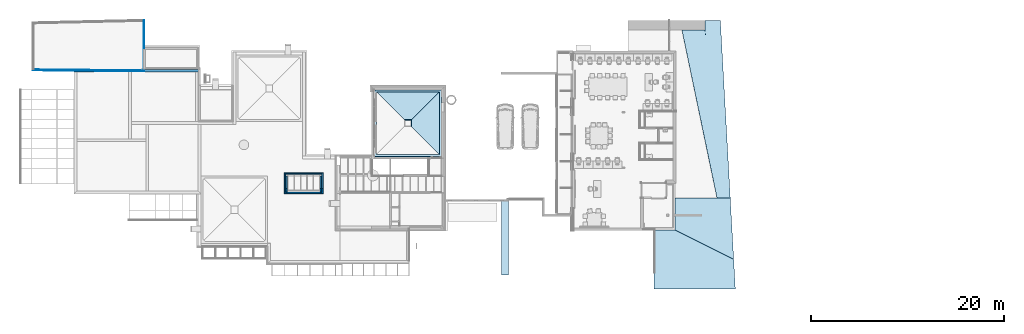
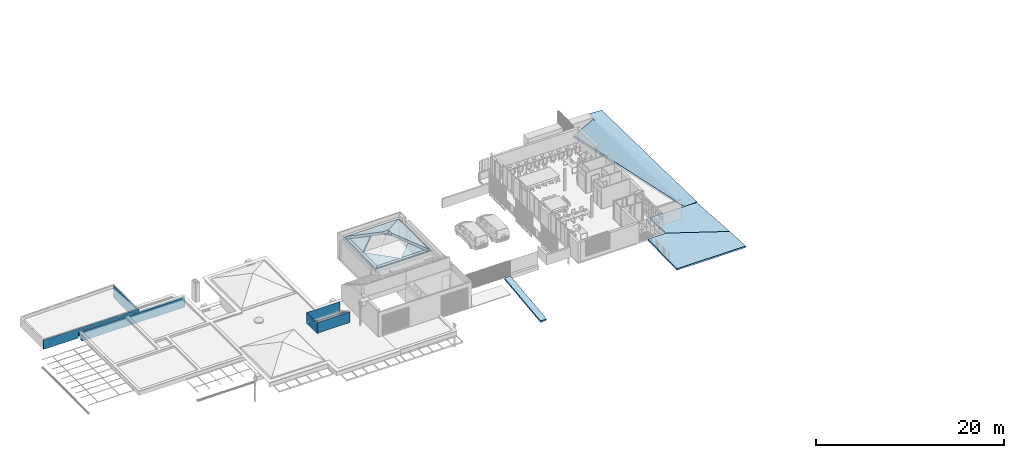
# One storey, part 23 of 51: 9 walls, 7 slabs.
"""IFC2X3 building model written with IfcOpenShell, lengths in metres."""

import ifcopenshell
import ifcopenshell.guid

model = None  # the IFC model being written
_history = None  # IfcOwnerHistory: only IFC2X3 demands one
_inside = {}  # id of a spatial element -> (the spatial element, [elements in it])
_under = {}  # id of a project, library or spatial element -> (it, [spatial elements below it])
_declared = {}  # id of a project -> (the project, [libraries it declares])
_typed = {}  # id of a type object -> (the type object, [elements of that type])
_made_of = {}  # id of a material, layer set ... -> (it, [elements and type objects made of it])


def new_model(schema):
    """Start an empty IFC model of exactly this schema.

    Asked for "IFC4X3", IfcOpenShell would pick the latest addendum, in which some entities
    have other attributes; the version numbers below select the first issue.
    IFC2X3 requires an IfcOwnerHistory on every rooted entity: one is made here for all.
    """
    global model, _history
    if schema == "IFC4X3":
        model = ifcopenshell.file(schema_version=(4, 3, 0, 0))
    else:
        model = ifcopenshell.file(schema=schema)
    _inside.clear()
    _under.clear()
    _declared.clear()
    _typed.clear()
    _made_of.clear()
    _history = None
    if model.schema == "IFC2X3":
        org = make("IfcOrganization", Name="unknown")
        user = make(
            "IfcPersonAndOrganization",
            ThePerson=make("IfcPerson", FamilyName="unknown"),
            TheOrganization=org,
        )
        app = make(
            "IfcApplication",
            ApplicationDeveloper=org,
            Version="unknown",
            ApplicationFullName="unknown",
            ApplicationIdentifier="unknown",
        )
        _history = make(
            "IfcOwnerHistory",
            OwningUser=user,
            OwningApplication=app,
            ChangeAction="ADDED",
            CreationDate=0,
        )
    return model


def make(cls, **values):
    """One entity of the class cls with the attributes given. An attribute that is None is left unset."""
    return model.create_entity(
        cls, **{name: value for name, value in values.items() if value is not None}
    )


def entity(cls, *values):
    """Any entity or typed value of the class cls, its attributes in the order of the schema. None: left unset."""
    e = model.create_entity(cls)
    for i, value in enumerate(values):
        if value is not None:
            e[i] = value
    return e


def rooted(cls, **values):
    """An entity with a GlobalId (a new one), such as an element, a storey or a relation."""
    return make(cls, GlobalId=ifcopenshell.guid.new(), OwnerHistory=_history, **values)


def si_unit(unit_type, name, prefix=None):
    """IfcSIUnit, for example si_unit("LENGTHUNIT", "METRE", prefix="MILLI")."""
    return make("IfcSIUnit", UnitType=unit_type, Prefix=prefix, Name=name)


def converted_unit(unit_type, name, factor, base, dimensions=None, offset=None):
    """IfcConversionBasedUnit, such as the inch: factor (a typed value) times the base unit."""
    return make(
        "IfcConversionBasedUnit"
        if offset is None
        else "IfcConversionBasedUnitWithOffset",
        ConversionOffset=offset,
        Dimensions=None
        if dimensions is None
        else entity("IfcDimensionalExponents", *dimensions),
        UnitType=unit_type,
        Name=name,
        ConversionFactor=make(
            "IfcMeasureWithUnit", ValueComponent=factor, UnitComponent=base
        ),
    )


def derived_unit(unit_type, elements):
    """IfcDerivedUnit: a product of units, each with its exponent."""
    return make(
        "IfcDerivedUnit",
        Elements=[
            make("IfcDerivedUnitElement", Unit=unit, Exponent=power)
            for unit, power in elements
        ],
        UnitType=unit_type,
    )


def assignment(units):
    """IfcUnitAssignment: the units of a project."""
    return None if units is None else make("IfcUnitAssignment", Units=units)


def point(xyz):
    """IfcCartesianPoint."""
    return None if xyz is None else make("IfcCartesianPoint", Coordinates=xyz)


def direction(xyz):
    """IfcDirection."""
    return None if xyz is None else make("IfcDirection", DirectionRatios=xyz)


def frame(location, z_axis=None, x_axis=None):
    """IfcAxis2Placement3D, a coordinate frame: its origin and axes. An axis left out is left unset."""
    return make(
        "IfcAxis2Placement3D",
        Location=point(location),
        Axis=direction(z_axis),
        RefDirection=direction(x_axis),
    )


def origin():
    """The frame at (0, 0, 0) with its axes left unset."""
    return frame((0.0, 0.0, 0.0))


def place(relative_to, where):
    """IfcLocalPlacement: puts the frame where relative to a parent placement (None: the world)."""
    return make(
        "IfcLocalPlacement", PlacementRelTo=relative_to, RelativePlacement=where
    )


def context(
    kind, dimensions, precision=None, world=None, true_north=None, identifier=None
):
    """IfcGeometricRepresentationContext, for example the 3D "Model" context."""
    return make(
        "IfcGeometricRepresentationContext",
        ContextIdentifier=identifier,
        ContextType=kind,
        CoordinateSpaceDimension=dimensions,
        Precision=precision,
        WorldCoordinateSystem=world,
        TrueNorth=true_north,
    )


def subcontext(parent, identifier, kind, view, scale=None):
    """IfcGeometricRepresentationSubContext, for example "Body" below "Model"."""
    return make(
        "IfcGeometricRepresentationSubContext",
        ContextIdentifier=identifier,
        ContextType=kind,
        ParentContext=parent,
        TargetScale=scale,
        TargetView=view,
    )


def project(units=None, contexts=None):
    """IfcProject with its units and contexts."""
    return rooted(
        "IfcProject",
        Name="project",
        RepresentationContexts=contexts,
        UnitsInContext=assignment(units),
    )


def spatial(cls, under=None, at=None, **own):
    """A site, building, storey or space (cls), placed at a placement, below another one or the project."""
    s = rooted(cls, ObjectPlacement=at, **own)
    if under is not None:
        _under.setdefault(under.id(), (under, []))[1].append(s)
    return s


def faces_of(points, faces, orient=None, outer=None):
    """IfcFace entities. A face is a list of loops; a loop is a list of indices into points, from 0.

    orient and outer hold one flag for each loop. By default every Orientation is true, the
    first loop of a face is its IfcFaceOuterBound and the others are IfcFaceBound.
    """
    made = []
    for i, loops in enumerate(faces):
        bounds = []
        for j, loop in enumerate(loops):
            is_outer = j == 0 if outer is None else outer[i][j]
            bounds.append(
                make(
                    "IfcFaceOuterBound" if is_outer else "IfcFaceBound",
                    Bound=make("IfcPolyLoop", Polygon=[points[k] for k in loop]),
                    Orientation=True if orient is None else orient[i][j],
                )
            )
        made.append(make("IfcFace", Bounds=bounds))
    return made


def faceted_brep(points, faces, orient=None, outer=None, voids=None):
    """IfcFacetedBrep: a solid bounded by flat faces; with voids (closed shells), ...WithVoids."""
    shared = [point(p) for p in points]
    hull = make("IfcClosedShell", CfsFaces=faces_of(shared, faces, orient, outer))
    if voids is None:
        return make("IfcFacetedBrep", Outer=hull)
    return make(
        "IfcFacetedBrepWithVoids",
        Outer=hull,
        Voids=[
            make(cls, CfsFaces=faces_of(shared, fs, o, b)) for cls, fs, o, b in voids
        ],
    )


def shape(context_of_items, identifier, shape_type, items):
    """IfcShapeRepresentation: the items that make up one representation, for example the "Body"."""
    return make(
        "IfcShapeRepresentation",
        ContextOfItems=context_of_items,
        RepresentationIdentifier=identifier,
        RepresentationType=shape_type,
        Items=items,
    )


def material(Name=None, Category=None):
    """IfcMaterial."""
    return make("IfcMaterial", Name=Name, Category=Category)


def layer(
    of_material, thickness, ventilated=None, Name=None, Category=None, Priority=None
):
    """IfcMaterialLayer: one layer of a wall or slab, of a material (None: an air gap)."""
    return make(
        "IfcMaterialLayer",
        Material=of_material,
        LayerThickness=thickness,
        IsVentilated=ventilated,
        Name=Name,
        Category=Category,
        Priority=Priority,
    )


def layer_set(layers, Name=None):
    """IfcMaterialLayerSet."""
    return make("IfcMaterialLayerSet", MaterialLayers=layers, LayerSetName=Name)


def layer_usage(for_layer_set, set_direction, sense, offset, extent=None):
    """IfcMaterialLayerSetUsage: how a layer set lies in its element."""
    return make(
        "IfcMaterialLayerSetUsage",
        ForLayerSet=for_layer_set,
        LayerSetDirection=set_direction,
        DirectionSense=sense,
        OffsetFromReferenceLine=offset,
        ReferenceExtent=extent,
    )


def made_of(thing, what):
    """Note that an element or type object is made of a material, layer set ...; save() writes the relation."""
    if what is not None:
        _made_of.setdefault(what.id(), (what, []))[1].append(thing)
    return thing


def type_object(cls, material=None, **own):
    """A type object (cls), such as IfcWallType, which elements share."""
    return made_of(rooted(cls, **own), material)


def element(
    cls,
    number,
    at=None,
    inside=None,
    cuts=None,
    type_object=None,
    material=None,
    context=None,
    identifier="Body",
    shape_type=None,
    held_by="IfcProductDefinitionShape",
    body=None,
    shapes=None,
    **own,
):
    """One element of the class cls, such as IfcWall. Its Tag is "e" and its number.

    at: its placement. inside: the storey or other place that contains it. cuts: it is an
    opening in that element (IfcRelVoidsElement). A single representation is given by context,
    identifier, shape_type and body (its items); several are given by shapes. held_by: the class
    of the entity that holds the representations. save() writes the other relations.
    """
    e = rooted(cls, Tag="e%d" % number, ObjectPlacement=at, **own)
    if body is not None:
        shapes = [shape(context, identifier, shape_type, body)]
    if shapes is not None:
        e.Representation = make(held_by, Representations=shapes)
    if inside is not None:
        _inside.setdefault(inside.id(), (inside, []))[1].append(e)
    if cuts is not None:
        rooted(
            "IfcRelVoidsElement", RelatingBuildingElement=cuts, RelatedOpeningElement=e
        )
    if type_object is not None:
        _typed.setdefault(type_object.id(), (type_object, []))[1].append(e)
    return made_of(e, material)


def aggregate(whole, parts):
    """IfcRelAggregates: a whole, such as a stair, and the parts it consists of."""
    return rooted("IfcRelAggregates", RelatingObject=whole, RelatedObjects=parts)


def save(model, path):
    """Write the relations noted so far, then the file.

    IfcRelAggregates (storeys below a building ...), IfcRelContainedInSpatialStructure (elements
    in a storey), IfcRelDefinesByType, IfcRelAssociatesMaterial and IfcRelDeclares: one each for
    every whole, place, type object, material and project.
    """
    for whole, parts in _under.values():
        aggregate(whole, parts)
    for where, things in _inside.values():
        rooted(
            "IfcRelContainedInSpatialStructure",
            RelatedElements=things,
            RelatingStructure=where,
        )
    for kind, things in _typed.values():
        rooted("IfcRelDefinesByType", RelatedObjects=things, RelatingType=kind)
    for what, things in _made_of.values():
        rooted("IfcRelAssociatesMaterial", RelatedObjects=things, RelatingMaterial=what)
    for by, libraries in _declared.values():
        rooted("IfcRelDeclares", RelatingContext=by, RelatedDefinitions=libraries)
    model.write(path)


model = new_model("IFC2X3")

# Units and contexts
model_context = context("Model", 3, precision=1e-05, world=origin(), true_north=direction((6.123031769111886e-17, 1.0)))
body_context = subcontext(model_context, "Body", "Model", "MODEL_VIEW")
ifc_project = project(units=[si_unit("LENGTHUNIT", "METRE"), si_unit("AREAUNIT", "SQUARE_METRE"), si_unit("VOLUMEUNIT", "CUBIC_METRE"), converted_unit("PLANEANGLEUNIT", "DEGREE", entity("IfcRatioMeasure", 0.017453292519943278), si_unit("PLANEANGLEUNIT", "RADIAN"), dimensions=[0, 0, 0, 0, 0, 0, 0]), si_unit("MASSUNIT", "GRAM", prefix="KILO"), derived_unit("MASSDENSITYUNIT", [(si_unit("MASSUNIT", "GRAM", prefix="KILO"), 1), (si_unit("LENGTHUNIT", "METRE"), -3)]), derived_unit("MOMENTOFINERTIAUNIT", [(si_unit("LENGTHUNIT", "METRE"), 4)]), si_unit("TIMEUNIT", "SECOND"), si_unit("FREQUENCYUNIT", "HERTZ"), si_unit("THERMODYNAMICTEMPERATUREUNIT", "DEGREE_CELSIUS"), derived_unit("THERMALTRANSMITTANCEUNIT", [(si_unit("MASSUNIT", "GRAM", prefix="KILO"), 1), (si_unit("THERMODYNAMICTEMPERATUREUNIT", "KELVIN"), -1), (si_unit("TIMEUNIT", "SECOND"), -3)]), derived_unit("THERMALCONDUCTANCEUNIT", [(si_unit("MASSUNIT", "GRAM", prefix="KILO"), 1), (si_unit("LENGTHUNIT", "METRE"), 1), (si_unit("THERMODYNAMICTEMPERATUREUNIT", "KELVIN"), -1), (si_unit("TIMEUNIT", "SECOND"), -3)]), derived_unit("VOLUMETRICFLOWRATEUNIT", [(si_unit("LENGTHUNIT", "METRE"), 3), (si_unit("TIMEUNIT", "SECOND"), -1)]), derived_unit("MASSFLOWRATEUNIT", [(si_unit("MASSUNIT", "GRAM", prefix="KILO"), 1), (si_unit("TIMEUNIT", "SECOND"), -1)]), derived_unit("ROTATIONALFREQUENCYUNIT", [(si_unit("TIMEUNIT", "SECOND"), -1)]), si_unit("ELECTRICCURRENTUNIT", "AMPERE"), si_unit("ELECTRICVOLTAGEUNIT", "VOLT"), si_unit("POWERUNIT", "WATT"), si_unit("FORCEUNIT", "NEWTON", prefix="KILO"), si_unit("ILLUMINANCEUNIT", "LUX"), si_unit("LUMINOUSFLUXUNIT", "LUMEN"), si_unit("LUMINOUSINTENSITYUNIT", "CANDELA"), derived_unit("USERDEFINED", [(si_unit("MASSUNIT", "GRAM", prefix="KILO"), -1), (si_unit("LENGTHUNIT", "METRE"), -2), (si_unit("TIMEUNIT", "SECOND"), 3), (si_unit("LUMINOUSFLUXUNIT", "LUMEN"), 1)]), derived_unit("USERDEFINED", [(si_unit("MASSUNIT", "GRAM", prefix="KILO"), 1), (si_unit("LENGTHUNIT", "METRE"), 3), (si_unit("TIMEUNIT", "SECOND"), -3), (si_unit("ELECTRICCURRENTUNIT", "AMPERE"), -2)]), derived_unit("USERDEFINED", [(si_unit("LENGTHUNIT", "METRE"), 2), (si_unit("TIMEUNIT", "SECOND"), -2)]), derived_unit("SOUNDPOWERUNIT", [(si_unit("MASSUNIT", "GRAM", prefix="KILO"), 1), (si_unit("LENGTHUNIT", "METRE"), 2), (si_unit("TIMEUNIT", "SECOND"), -3)]), derived_unit("SOUNDPRESSUREUNIT", [(si_unit("MASSUNIT", "GRAM", prefix="KILO"), 1), (si_unit("LENGTHUNIT", "METRE"), -1), (si_unit("TIMEUNIT", "SECOND"), -2)]), derived_unit("LINEARVELOCITYUNIT", [(si_unit("LENGTHUNIT", "METRE"), 1), (si_unit("TIMEUNIT", "SECOND"), -1)]), si_unit("PRESSUREUNIT", "PASCAL"), derived_unit("USERDEFINED", [(si_unit("LENGTHUNIT", "METRE"), -2), (si_unit("MASSUNIT", "GRAM", prefix="KILO"), 1), (si_unit("TIMEUNIT", "SECOND"), -2)]), derived_unit("LINEARFORCEUNIT", [(si_unit("MASSUNIT", "GRAM", prefix="KILO"), 1), (si_unit("LENGTHUNIT", "METRE"), 1), (si_unit("TIMEUNIT", "SECOND"), -2), (si_unit("LENGTHUNIT", "METRE"), -1)]), derived_unit("PLANARFORCEUNIT", [(si_unit("MASSUNIT", "GRAM", prefix="KILO"), 1), (si_unit("LENGTHUNIT", "METRE"), 1), (si_unit("TIMEUNIT", "SECOND"), -2), (si_unit("LENGTHUNIT", "METRE"), -2)]), derived_unit("SPECIFICHEATCAPACITYUNIT", [(si_unit("LENGTHUNIT", "METRE"), 2), (si_unit("TIMEUNIT", "SECOND"), -2), (si_unit("THERMODYNAMICTEMPERATUREUNIT", "KELVIN"), -1)]), derived_unit("VAPORPERMEABILITYUNIT", [(si_unit("TIMEUNIT", "SECOND"), 1), (si_unit("LENGTHUNIT", "METRE"), -1)]), derived_unit("DYNAMICVISCOSITYUNIT", [(si_unit("MASSUNIT", "GRAM", prefix="KILO"), 1), (si_unit("LENGTHUNIT", "METRE"), -1), (si_unit("TIMEUNIT", "SECOND"), -1)]), derived_unit("THERMALEXPANSIONCOEFFICIENTUNIT", [(si_unit("THERMODYNAMICTEMPERATUREUNIT", "KELVIN"), -1)])], contexts=[model_context])

# Site, building, storey
site_placement = place(None, origin())
site = spatial("IfcSite", under=ifc_project, at=site_placement, Name="Default", CompositionType="ELEMENT")
building_placement = place(site_placement, origin())
building = spatial("IfcBuilding", under=site, at=building_placement, CompositionType="ELEMENT")
storey_placement = place(building_placement, frame((0.0, 0.0, 3.06)))
storey = spatial("IfcBuildingStorey", under=building, at=storey_placement, Name="ÉTAGE", CompositionType="ELEMENT", Elevation=3.06)

# Slabs
ifc_material_1 = material(Name="Sol - Moquette 03")
slab_type_1 = type_object("IfcSlabType", Name="Toit-02", PredefinedType="ROOF", material=ifc_material_1)
slab_1_placement = place(storey_placement, frame((150.00075227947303, 1.4872094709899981, 0.886799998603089)))
element("IfcSlab", 1, at=slab_1_placement, inside=storey, type_object=slab_type_1, Name="Toit-02 240278:Toit-02 240278", ObjectType="Toit-02 240278:Toit-02 240278", PredefinedType="ROOF", context=body_context, shape_type="Brep", body=[
    faceted_brep([(8.455439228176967, 0.0, 0.1999999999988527), (8.28221666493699, 3.11139222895, 0.2622278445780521), (2.1850009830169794, 6.160000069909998, 0.3232000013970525), (0.0, 6.160000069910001, 0.32320000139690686), (0.0, 0.0, 0.19999999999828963), (8.45566183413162, 0.0, 0.0), (8.282359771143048, 3.1128201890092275, 0.06225640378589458), (2.1880000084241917, 6.160000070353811, 0.12320000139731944), (0.0, 6.1600000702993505, 0.1232000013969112), (0.0, 0.0, 0.0)], [[[0, 1, 2, 3, 4]], [[1, 0, 5, 6]], [[2, 1, 6, 7]], [[3, 2, 7, 8]], [[4, 3, 8, 9]], [[0, 4, 9, 5]], [[6, 5, 9, 8, 7]]]),
])
ifc_material_2 = material(Name="Env. - Herbe brune")
slab_type_2 = type_object("IfcSlabType", Name="Dalle-006", PredefinedType="FLOOR", material=ifc_material_2)
slab_2_placement = place(storey_placement, frame((152.90075228, 10.987209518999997, 0.7281463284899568)))
element("IfcSlab", 2, at=slab_2_placement, inside=storey, type_object=slab_type_2, Name="Dalle-006 287061:Dalle-006 287061", ObjectType="Dalle-006 287061:Dalle-006 287061", PredefinedType="FLOOR", context=body_context, shape_type="Brep", body=[
    faceted_brep([(2.4000001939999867, 17.4369534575, 1.5723209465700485), (0.0, 17.4369534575, 0.2818536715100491), (3.642294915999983, 6.4000002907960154e-09, 0.2818536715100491), (3.642294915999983, 6.400004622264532e-09, 0.2629862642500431), (5.029323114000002, 6.099998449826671e-09, 0.5476536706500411), (0.0, 17.4369534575, 0.0), (3.9998775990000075, 18.440715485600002, 1.579395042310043), (2.93412111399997, 3.349999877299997, 0.011853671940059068), (3.9998775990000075, 18.4407154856, 0.011853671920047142), (2.4000001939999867, 18.4369534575, 1.6494942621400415), (2.4000001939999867, 17.4369534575, 0.005721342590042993), (3.642294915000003, 0.0, 0.20907938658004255), (5.029323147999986, 2.149999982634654e-08, 0.011853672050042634), (2.4000001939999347, 18.4369534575, 0.009250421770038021)], [[[0, 1, 2]], [[1, 3, 2]], [[4, 0, 2]], [[1, 5, 3]], [[0, 4, 6]], [[5, 7, 3]], [[6, 4, 8]], [[9, 0, 6]], [[7, 5, 10]], [[11, 3, 7]], [[4, 12, 8]], [[7, 10, 13]], [[11, 7, 12]], [[7, 8, 12]], [[7, 13, 8]]]),
])
slab_type_3 = type_object("IfcSlabType", Name="Dalle-010", PredefinedType="FLOOR")
slab_3_placement = place(storey_placement, frame((120.97075226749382, 15.207209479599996, 2.4)))
element("IfcSlab", 3, at=slab_3_placement, inside=storey, type_object=slab_type_3, Name="Dalle-010 442746:Dalle-010 442746", ObjectType="Dalle-010 442746:Dalle-010 442746", PredefinedType="FLOOR", context=body_context, shape_type="Brep", body=[
    faceted_brep([(6.939999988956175, 6.9800000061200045, 0.0), (6.939999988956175, 0.0, 0.0), (0.010000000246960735, 0.0, 0.0), (0.010000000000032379, 0.10000000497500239, 0.0), (2.350616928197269e-08, 0.10000000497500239, 0.0), (2.350616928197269e-08, 6.820000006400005, 0.0), (0.04000001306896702, 6.820000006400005, 0.0), (0.04000001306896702, 6.9800000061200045, 0.0), (3.469999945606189, 0.5801515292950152, 0.0), (6.439848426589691, 3.5500000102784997, 0.0), (3.4699999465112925, 6.5198484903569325, 0.0), (0.500151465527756, 3.550000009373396, 0.0), (6.939999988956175, 0.0, 0.3600000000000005), (6.930000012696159, 0.0, 0.3600000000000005), (6.930000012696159, 0.0, 0.44000000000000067), (0.010000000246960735, 0.0, 0.44000000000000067), (6.939999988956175, 6.9800000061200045, 0.3399999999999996), (6.939999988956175, 0.08000000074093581, 0.3399999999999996), (6.939999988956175, 0.08000000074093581, 0.3600000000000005), (0.04000001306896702, 6.9800000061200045, 0.3399999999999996), (2.350616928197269e-08, 0.10000000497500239, 0.3399999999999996), (2.350616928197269e-08, 6.820000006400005, 0.3400000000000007), (6.930000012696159, 0.08000000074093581, 0.3600000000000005), (6.940000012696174, 0.08000000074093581, 0.3399999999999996), (0.010000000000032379, 0.08000000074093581, 0.3399999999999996), (0.01000000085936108, 0.08000000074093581, 0.44000000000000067), (6.930000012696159, 0.08000000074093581, 0.44000000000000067), (0.04000001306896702, 6.820000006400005, 0.3399999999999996), (0.0, 0.10000000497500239, 0.3399999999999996), (0.010000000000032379, 0.10000000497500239, 0.3399999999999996), (0.2099999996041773, 6.790000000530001, 0.3399999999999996), (6.730000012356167, 6.7900000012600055, 0.3399999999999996), (6.730000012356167, 0.29000000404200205, 0.3399999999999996), (0.20999999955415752, 0.2900000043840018, 0.3399999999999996), (6.940000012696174, 0.08000000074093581, 0.3600000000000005), (6.930000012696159, 0.08000000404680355, 0.3600000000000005), (6.930000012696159, 0.07999998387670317, 0.44000000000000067), (0.01000000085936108, 0.08000000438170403, 0.44000000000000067), (0.010000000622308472, 0.0, 0.44000000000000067), (0.010000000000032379, 0.08000000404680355, 0.3399999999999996), (0.0, 6.820000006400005, 0.3399999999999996), (0.2099999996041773, 6.790000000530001, 0.16999999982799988), (6.730000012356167, 6.79000000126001, 0.16999999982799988), (0.20999999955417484, 0.2900000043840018, 0.16999999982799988), (6.730000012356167, 0.29000000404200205, 0.16999999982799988), (0.5748068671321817, 6.425193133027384, 0.34000000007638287), (3.375344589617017, 6.42519313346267, 0.34000000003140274), (3.469999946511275, 6.519848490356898, 0.29589060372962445), (3.5646553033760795, 6.425193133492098, 0.34000000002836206), (6.365193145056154, 6.425193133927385, 0.339999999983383), (0.5748068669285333, 0.6548068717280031, 0.3400000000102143), (0.5748068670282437, 3.475344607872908, 0.3400000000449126), (0.5001514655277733, 3.5500000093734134, 0.30521058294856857), (0.5748068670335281, 3.6246554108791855, 0.3400000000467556), (6.365193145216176, 0.6548068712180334, 0.3399999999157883), (3.544655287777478, 0.6548068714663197, 0.3399999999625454), (3.4699999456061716, 0.5801515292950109, 0.30521061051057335), (3.395344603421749, 0.6548068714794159, 0.3399999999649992), (6.365193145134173, 3.6246552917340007, 0.3399999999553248), (6.439848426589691, 3.550000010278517, 0.30521063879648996), (6.365193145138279, 3.4753447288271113, 0.3399999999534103)], [[[0, 1, 2, 3, 4, 5, 6, 7], [8, 9, 10, 11]], [[2, 1, 12, 13, 14, 15]], [[1, 0, 16, 17, 18, 12]], [[0, 7, 19, 16]], [[5, 4, 20, 21]], [[22, 18, 23, 24, 25, 26]], [[24, 17, 16, 19, 27, 21, 28, 29], [30, 31, 32, 33]], [[34, 35, 13, 12]], [[22, 36, 14, 13]], [[26, 37, 38, 14]], [[25, 39, 29, 3, 2, 38]], [[29, 20, 4, 3]], [[40, 27, 6, 5]], [[27, 19, 7, 6]], [[31, 30, 41, 42]], [[30, 33, 43, 41]], [[33, 32, 44, 43]], [[32, 31, 42, 44]], [[42, 41, 45, 46, 47, 48, 49]], [[41, 43, 50, 51, 52, 53, 45]], [[43, 44, 54, 55, 56, 57, 50]], [[44, 42, 49, 58, 59, 60, 54]], [[49, 48, 58]], [[8, 56, 55, 60, 59, 9]], [[9, 59, 58, 48, 47, 10]], [[10, 47, 46, 53, 52, 11]], [[56, 8, 11, 52, 51, 57]], [[55, 54, 60]], [[46, 45, 53]], [[51, 50, 57]]]),
])
slab_type_4 = type_object("IfcSlabType", Name="Toit-02", PredefinedType="ROOF", material=ifc_material_1)
slab_4_placement = place(storey_placement, frame((152.18875228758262, 4.598601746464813, 0.9490586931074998)))
element("IfcSlab", 4, at=slab_4_placement, inside=storey, type_object=slab_type_4, Name="Toit-02 453865:Toit-02 453865", ObjectType="Toit-02 453865:Toit-02 453865", PredefinedType="ROOF", context=body_context, shape_type="Brep", body=[
    faceted_brep([(0.0, 3.047108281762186, 0.2609113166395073), (6.094216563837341, 0.0, 0.19996915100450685), (5.738539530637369, 6.388607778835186, 0.20352592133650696), (0.0, 6.388607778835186, 0.26091131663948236), (0.0, 3.0486077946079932, 0.06094130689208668), (6.094130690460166, 0.0015424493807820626, 0.0), (5.7385395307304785, 6.388607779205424, 0.0035559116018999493), (5.738539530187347, 6.388607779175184, 0.0035559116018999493), (0.0, 6.388607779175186, 0.06094130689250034)], [[[0, 1, 2, 3]], [[1, 0, 4, 5]], [[2, 1, 5, 6]], [[3, 2, 7, 8]], [[0, 3, 8, 4]], [[5, 4, 8, 7]]]),
])
ifc_material_3 = material(Name="Isolation - Fibre de verre")
slab_type_5 = type_object("IfcSlabType", Name="Toit-01", PredefinedType="ROOF", material=ifc_material_3)
slab_5_placement = place(storey_placement, frame((121.18075226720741, 19.035836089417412, 2.569999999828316)))
element("IfcSlab", 5, at=slab_5_placement, inside=storey, type_object=slab_type_5, Name="Toit-01 843637:Toit-01 843637", ObjectType="Toit-01 843637:Toit-01 843637", PredefinedType="ROOF", context=body_context, shape_type="Brep", body=[
    faceted_brep([(2.8904735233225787, 0.07089986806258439, 1.7000000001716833), (3.62952649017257, 0.07089986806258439, 1.7000000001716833), (6.520000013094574, 2.9613733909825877, 0.353039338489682), (0.0, 2.9613733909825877, 0.353039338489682), (2.956942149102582, 0.004431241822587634, 1.400000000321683), (3.563057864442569, 0.004431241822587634, 1.400000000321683), (6.52000001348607, 2.9613733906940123, 0.02206495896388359), (0.0, 2.9613733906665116, 0.02206495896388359), (0.0, 2.961373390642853, 0.0), (2.9613733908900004, 0.0, 1.3800000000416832), (6.520000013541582, 2.961373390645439, 0.0), (3.558626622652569, 0.0, 1.3800000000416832)], [[[0, 1, 2, 3]], [[0, 4, 5, 1]], [[1, 5, 6, 2]], [[2, 6, 7, 3]], [[3, 7, 4, 0]], [[4, 7, 6, 5]], [[7, 8, 9, 4]], [[6, 10, 8, 7]], [[8, 10, 11, 9]], [[4, 9, 11, 5]], [[4, 5, 6, 7]], [[5, 11, 10, 6]]]),
])
slab_type_6 = type_object("IfcSlabType", Name="Toit-01", PredefinedType="ROOF", material=ifc_material_3)
slab_6_placement = place(storey_placement, frame((124.73937888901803, 15.49720948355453, 2.569999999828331)))
element("IfcSlab", 6, at=slab_6_placement, inside=storey, type_object=slab_type_6, Name="Toit-01 843800:Toit-01 843800", ObjectType="Toit-01 843800:Toit-01 843800", PredefinedType="ROOF", context=body_context, shape_type="Brep", body=[
    faceted_brep([(2.961373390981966, 6.499999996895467, 0.3530393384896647), (0.07089986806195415, 3.6095264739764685, 1.7000000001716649), (0.07089986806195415, 2.8904735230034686, 1.7000000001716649), (2.961373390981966, 0.0, 0.3530393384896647), (2.961373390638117, 6.499999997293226, 0.02206495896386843), (0.004431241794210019, 3.543057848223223, 1.400000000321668), (0.004431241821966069, 2.9569421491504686, 1.4000000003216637), (2.9613733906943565, 0.0, 0.02206495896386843), (2.9613733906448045, 0.0, 0.0), (2.9613733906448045, 6.499999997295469, 0.0), (0.0, 2.961373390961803, 1.380000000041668), (0.0, 3.5386266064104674, 1.3800000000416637)], [[[0, 1, 2, 3]], [[0, 4, 5, 1]], [[1, 5, 6, 2]], [[2, 6, 7, 3]], [[3, 7, 4, 0]], [[4, 7, 6, 5]], [[7, 8, 9, 4]], [[6, 10, 8, 7]], [[8, 10, 11, 9]], [[4, 9, 11, 5]], [[4, 5, 6, 7]], [[5, 11, 10, 6]]]),
])
ifc_material_4 = material(Name="Env. - Galets")
ifc_layer_1 = layer(ifc_material_4, 0.198575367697)
ifc_layer_set_1 = layer_set([ifc_layer_1], Name="Toit de base:Toit-03")
ifc_layer_usage = layer_usage(ifc_layer_set_1, "AXIS3", "NEGATIVE", 0.0)
slab_type_7 = type_object("IfcSlabType", Name="Toit-03", PredefinedType="ROOF")
slab_7_placement = place(storey_placement, frame((134.140752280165, 2.967209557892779, -1.2327999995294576)))
element("IfcSlab", 7, at=slab_7_placement, inside=storey, type_object=slab_type_7, material=ifc_layer_usage, Name="Toit de base:Toit-03", ObjectType="Toit de base:Toit-03", PredefinedType="ROOF", context=body_context, shape_type="Brep", body=[
    faceted_brep([(0.0, 7.68999999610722, 0.9227999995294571), (0.7599999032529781, 7.68999999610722, 0.9227999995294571), (0.7599999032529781, 0.0, 0.0), (0.0, 0.0, 0.0), (0.7599999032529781, 7.68999999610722, 1.1227999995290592), (0.0, 7.68999999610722, 1.1227999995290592), (0.0, 0.0, 0.19999999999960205), (0.7599999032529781, 0.0, 0.19999999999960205)], [[[0, 1, 2, 3]], [[4, 5, 6, 7]], [[5, 4, 1, 0]], [[6, 5, 0, 3]], [[7, 6, 3, 2]], [[4, 7, 2, 1]]]),
])

# Walls
wall_type_1 = type_object("IfcWallType", Name="MurExt-018", PredefinedType="NOTDEFINED")
wall_1_placement = place(storey_placement, frame((111.76075227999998, 11.577209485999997, -0.09000000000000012), z_axis=(0.0, 0.0, 1.0), x_axis=(0.0, 1.0, 0.0)))
element("IfcWall", 8, at=wall_1_placement, inside=storey, type_object=wall_type_1, Name="MurExt-018:MurExt-018", ObjectType="MurExt-018:MurExt-018", context=body_context, shape_type="Brep", body=[
    faceted_brep([(0.0, -0.17000000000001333, 0.0), (0.0, 0.0, 0.0), (1.6600000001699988, 0.0, 0.0), (1.6600000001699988, -0.17000000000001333, 0.0), (1.660000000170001, -0.17000000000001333, 0.5732330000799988), (0.0, -0.17000000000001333, 1.516611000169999), (0.0, 0.0, 1.516611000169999), (1.6600000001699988, 0.0, 0.5732330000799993)], [[[0, 1, 2, 3]], [[0, 3, 4, 5]], [[2, 1, 6, 7]], [[1, 0, 5, 6]], [[7, 4, 3, 2]], [[4, 7, 6, 5]]]),
])
wall_type_2 = type_object("IfcWallType", Name="MurExt-020", PredefinedType="NOTDEFINED")
wall_2_placement = place(storey_placement, frame((115.32075228, 11.57720948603, -0.09000000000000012), z_axis=(0.0, 0.0, 1.0), x_axis=(0.0, 1.0, 0.0)))
element("IfcWall", 9, at=wall_2_placement, inside=storey, type_object=wall_type_2, Name="MurExt-020:MurExt-020", ObjectType="MurExt-020:MurExt-020", context=body_context, shape_type="Brep", body=[
    faceted_brep([(0.0, -0.16999999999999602, 0.0), (0.0, 0.0, 0.0), (1.6600000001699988, 0.0, 0.0), (1.6600000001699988, -0.16999999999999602, 0.0), (0.0, 0.0, 1.516611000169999), (1.6600000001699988, 0.0, 0.5732330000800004), (0.0, -0.16999999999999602, 1.5166110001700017), (1.660000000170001, -0.16999999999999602, 0.5732330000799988)], [[[0, 1, 2, 3]], [[2, 1, 4, 5]], [[1, 0, 6, 4]], [[0, 3, 7, 6]], [[5, 7, 3, 2]], [[7, 5, 4, 6]]]),
])
wall_type_3 = type_object("IfcWallType", Name="MurExt-006", PredefinedType="NOTDEFINED")
wall_3_placement = place(storey_placement, frame((115.49075228, 11.417209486, 0.06999999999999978), z_axis=(0.0, 0.0, 1.0), x_axis=(0.0, 1.0, 0.0)))
element("IfcWall", 10, at=wall_3_placement, inside=storey, type_object=wall_type_3, Name="MurExt-006 441938:MurExt-006 441938", ObjectType="MurExt-006 441938:MurExt-006 441938", context=body_context, shape_type="Brep", body=[
    faceted_brep([(0.0, -0.15999999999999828, 0.07000000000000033), (2.17000000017, -0.15999999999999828, 0.07000000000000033), (2.17000000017, -0.15999999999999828, 0.19907199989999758), (0.0, -0.15999999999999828, 1.4322829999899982), (2.17000000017, -0.14000000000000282, 0.07000000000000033), (2.17000000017, -0.14000000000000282, 0.19907199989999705), (0.0, -0.14000000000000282, 0.07000000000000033), (0.0, -0.14000000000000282, 1.4322829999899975), (0.020000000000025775, -0.14000000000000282, 1.420916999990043), (2.150000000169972, -0.14000000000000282, 0.21043799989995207)], [[[0, 1, 2, 3]], [[1, 4, 5, 2]], [[4, 6, 7, 8, 9, 5]], [[6, 0, 3, 7]], [[1, 0, 6, 4]], [[3, 2, 5, 9, 8, 7]]]),
    faceted_brep([(0.019999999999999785, -0.14000000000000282, 0.07000000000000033), (2.15000000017, -0.14000000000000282, 0.07000000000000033), (2.150000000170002, -0.14000000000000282, 0.2104379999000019), (0.019999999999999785, -0.14000000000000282, 1.4209169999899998), (2.15000000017, 0.0, 0.07000000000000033), (0.019999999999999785, 0.0, 0.07000000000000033), (0.019999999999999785, 0.0, 1.420916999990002), (2.15000000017, 0.0, 0.21043799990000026)], [[[0, 1, 2, 3]], [[4, 5, 6, 7]], [[0, 5, 4, 1]], [[1, 4, 7, 2]], [[2, 7, 6, 3]], [[5, 0, 3, 6]]]),
])
wall_type_4 = type_object("IfcWallType", Name="MurExt-009", PredefinedType="NOTDEFINED")
wall_4_placement = place(storey_placement, frame((111.60075227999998, 11.417209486, 0.06999999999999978)))
element("IfcWall", 11, at=wall_4_placement, inside=storey, type_object=wall_type_4, Name="MurExt-009:MurExt-009", ObjectType="MurExt-009:MurExt-009", context=body_context, shape_type="Brep", body=[
    faceted_brep([(0.019999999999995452, 0.0, 1.4322829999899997), (0.019999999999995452, 0.0, 0.07000000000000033), (4.029999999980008, 0.0, 0.07000000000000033), (4.029999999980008, 0.0, 1.4322829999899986), (0.019999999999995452, 0.019999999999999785, 0.07000000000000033), (0.019999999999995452, 0.019999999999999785, 1.4209169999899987), (0.15999999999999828, 0.019999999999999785, 1.4209169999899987), (3.8899999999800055, 0.019999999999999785, 1.4209169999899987), (4.029999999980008, 0.019999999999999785, 1.4209169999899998), (4.029999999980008, 0.019999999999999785, 0.07000000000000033)], [[[0, 1, 2, 3]], [[4, 5, 6, 7, 8, 9]], [[0, 5, 4, 1]], [[5, 0, 3, 8, 7, 6]], [[8, 3, 2, 9]], [[1, 4, 9, 2]]]),
    faceted_brep([(0.15999999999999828, 0.019999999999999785, 1.4209169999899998), (0.15999999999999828, 0.019999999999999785, 0.07000000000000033), (3.8899999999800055, 0.019999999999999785, 0.07000000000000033), (3.8899999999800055, 0.019999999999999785, 1.4209169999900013), (0.15999999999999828, 0.16000000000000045, 0.07000000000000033), (0.15999999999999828, 0.16000000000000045, 1.3413549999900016), (3.8899999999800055, 0.16000000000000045, 1.3413549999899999), (3.8899999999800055, 0.16000000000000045, 0.07000000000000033)], [[[0, 1, 2, 3]], [[4, 5, 6, 7]], [[0, 5, 4, 1]], [[5, 0, 3, 6]], [[6, 3, 2, 7]], [[1, 4, 7, 2]]]),
])
wall_type_5 = type_object("IfcWallType", Name="MurExt-008", PredefinedType="NOTDEFINED")
wall_5_placement = place(storey_placement, frame((111.60075227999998, 11.41720948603, 0.06999999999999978), z_axis=(0.0, 0.0, 1.0), x_axis=(0.0, 1.0, 0.0)))
element("IfcWall", 12, at=wall_5_placement, inside=storey, type_object=wall_type_5, Name="MurExt-008 445404:MurExt-008 445404", ObjectType="MurExt-008 445404:MurExt-008 445404", context=body_context, shape_type="Brep", body=[
    faceted_brep([(2.17000000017, 0.0, 1.4499999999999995), (0.0, 0.0, 1.4499999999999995), (0.0, -0.019999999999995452, 1.4499999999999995), (2.17000000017, -0.019999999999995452, 1.4499999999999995), (2.17000000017, 0.0, 0.0), (2.17000000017, -0.019999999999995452, 0.0), (0.0, -0.019999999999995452, 0.0), (0.0, 0.0, 0.0)], [[[0, 1, 2, 3]], [[4, 5, 6, 7]], [[1, 0, 4, 7]], [[2, 1, 7, 6]], [[3, 2, 6, 5]], [[0, 3, 5, 4]]]),
    faceted_brep([(2.0100000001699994, -0.019999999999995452, 0.07000000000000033), (0.02000000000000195, -0.019999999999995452, 0.07000000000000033), (0.02000000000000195, -0.019999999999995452, 1.4209169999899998), (2.0100000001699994, -0.019999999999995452, 0.2899999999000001), (0.02000000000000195, -0.15999999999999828, 0.07000000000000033), (2.0100000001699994, -0.15999999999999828, 0.07000000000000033), (2.0100000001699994, -0.15999999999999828, 0.2899999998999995), (0.02000000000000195, -0.15999999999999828, 1.4209169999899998)], [[[0, 1, 2, 3]], [[4, 5, 6, 7]], [[0, 5, 4, 1]], [[5, 0, 3, 6]], [[6, 3, 2, 7]], [[1, 4, 7, 2]]]),
])
wall_type_6 = type_object("IfcWallType", Name="MurExt-007", PredefinedType="NOTDEFINED")
wall_6_placement = place(storey_placement, frame((111.60075228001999, 13.427209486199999, 0.06999999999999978)))
element("IfcWall", 13, at=wall_6_placement, inside=storey, type_object=wall_type_6, Name="MurExt-007 445902:MurExt-007 445902", ObjectType="MurExt-007 445902:MurExt-007 445902", context=body_context, shape_type="Brep", body=[
    faceted_brep([(4.049999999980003, 0.16000000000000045, 1.4499999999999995), (0.0, 0.16000000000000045, 1.4499999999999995), (0.0, 0.14000000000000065, 1.4499999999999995), (4.049999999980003, 0.14000000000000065, 1.4499999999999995), (4.049999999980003, 0.16000000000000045, 0.0), (4.049999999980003, 0.14000000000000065, 0.0), (0.0, 0.14000000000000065, 0.0), (0.0, 0.16000000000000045, 0.0)], [[[0, 1, 2, 3]], [[4, 5, 6, 7]], [[1, 0, 4, 7]], [[2, 1, 7, 6]], [[3, 2, 6, 5]], [[0, 3, 5, 4]]]),
    faceted_brep([(0.019999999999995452, 0.14000000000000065, 0.07000000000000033), (0.019999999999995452, 0.14000000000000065, 0.2104379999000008), (3.8899999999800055, 0.14000000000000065, 0.21043799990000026), (3.8899999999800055, 0.14000000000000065, 0.07000000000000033), (0.019999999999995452, 0.0, 0.2899999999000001), (0.019999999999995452, 0.0, 0.07000000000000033), (3.8899999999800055, 0.0, 0.07000000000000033), (3.8899999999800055, 0.0, 0.2899999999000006)], [[[0, 1, 2, 3]], [[4, 5, 6, 7]], [[4, 1, 0, 5]], [[1, 4, 7, 2]], [[2, 7, 6, 3]], [[5, 0, 3, 6]]]),
])
ifc_material_5 = material(Name="Appareillage - Pierre taillé")
ifc_layer_2 = layer(ifc_material_5, 0.29999999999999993)
ifc_layer_set_2 = layer_set([ifc_layer_2], Name="Mur de base:Struct. - Pierre 300")
wall_type_7 = type_object("IfcWallType", Name="Mur de base:Struct. - Pierre 300", PredefinedType="STANDARD", material=ifc_layer_set_2)
wall_7_placement = place(storey_placement, frame((89.75075228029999, 24.187209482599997, -0.9899999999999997)))
element("IfcWallStandardCase", 14, at=wall_7_placement, inside=storey, type_object=wall_type_7, Name="MurExt-010", ObjectType="Mur de base:Struct. - Pierre 300", context=body_context, shape_type="Brep", body=[
    faceted_brep([(0.2999999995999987, -0.15000000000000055, 0.0), (12.939999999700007, -0.15000000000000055, 0.0), (12.939999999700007, -0.15000000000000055, 0.26999999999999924), (12.939999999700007, -0.15000000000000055, 1.2699999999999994), (12.639999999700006, -0.15000000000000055, 1.2699999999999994), (5.990000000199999, -0.15000000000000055, 1.2699999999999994), (5.690000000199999, -0.15000000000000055, 1.2699999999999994), (0.3000000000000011, -0.15000000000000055, 1.2699999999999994), (0.0, -0.15000000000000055, 1.2699999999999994), (0.0, -0.15000000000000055, 0.7299999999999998), (0.2999999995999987, -0.15000000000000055, 0.7299999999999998), (0.2999999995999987, 0.15000000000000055, 0.0), (0.2999999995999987, 0.15000000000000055, 0.7299999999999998), (0.0, 0.15000000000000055, 0.7299999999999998), (0.0, 0.15000000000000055, 1.2699999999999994), (7.2299999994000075, 0.15000000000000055, 1.2699999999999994), (7.329999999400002, 0.15000000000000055, 1.2699999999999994), (12.939999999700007, 0.15000000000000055, 1.2699999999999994), (12.939999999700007, 0.15000000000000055, 0.0), (7.329999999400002, 0.15000000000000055, 0.0), (7.2299999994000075, 0.15000000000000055, 0.0), (0.2999999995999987, 0.03705401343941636, 0.0)], [[[0, 1, 2, 3, 4, 5, 6, 7, 8, 9, 10]], [[11, 12, 13, 14, 15, 16, 17, 18, 19, 20]], [[1, 0, 21, 11, 20, 19, 18]], [[8, 7, 6, 5, 4, 3, 17, 16, 15, 14]], [[3, 2, 1, 18, 17]], [[9, 13, 12, 10]], [[0, 10, 12, 11, 21]], [[9, 8, 14, 13]]]),
])
ifc_material_6 = material(Name="Métal - Fer")
ifc_layer_3 = layer(ifc_material_6, 0.1)
ifc_layer_set_3 = layer_set([ifc_layer_3], Name="Mur de base:Métal - Fer 100")
wall_type_8 = type_object("IfcWallType", Name="Mur de base:Métal - Fer 100", PredefinedType="STANDARD", material=ifc_layer_set_3)
wall_8_placement = place(storey_placement, frame((97.08124365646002, 24.155167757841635, -0.5600000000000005), z_axis=(0.0, 0.0, 1.0), x_axis=(-0.9999517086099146, 0.009827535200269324, 0.0)))
element("IfcWallStandardCase", 15, at=wall_8_placement, inside=storey, type_object=wall_type_8, Name="MurExt-016", ObjectType="Mur de base:Métal - Fer 100", context=body_context, shape_type="Brep", body=[
    faceted_brep([(7.331336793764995, -0.050000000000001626, 0.0), (11.521351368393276, -0.0499999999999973, 0.0), (11.621356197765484, -0.0499999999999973, 0.0), (11.630807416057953, -0.0499999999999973, 0.0), (11.630807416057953, -0.0499999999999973, 1.22), (11.621356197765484, -0.0499999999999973, 1.22), (11.521351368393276, -0.0499999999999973, 1.22), (0.10098763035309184, -0.050000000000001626, 1.22), (0.0009828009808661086, -0.0499999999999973, 1.22), (0.0009828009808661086, -0.0499999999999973, 0.8400000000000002), (0.10098763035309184, -0.050000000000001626, 0.8400000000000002), (7.331336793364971, -0.0499999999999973, 0.8400000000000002), (7.331336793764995, -0.050000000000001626, 0.30000000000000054), (7.330353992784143, 0.0499999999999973, 0.0), (7.3303539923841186, 0.050000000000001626, 0.30000000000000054), (7.3303539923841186, 0.050000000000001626, 0.8400000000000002), (0.0, 0.050000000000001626, 0.8400000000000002), (0.0, 0.050000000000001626, 1.22), (11.630807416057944, 0.050000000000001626, 1.22), (11.630807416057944, 0.050000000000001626, 0.0), (7.330353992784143, 0.0499999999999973, 0.30000000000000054), (7.331336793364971, -0.0499999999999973, 0.30000000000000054)], [[[0, 1, 2, 3, 4, 5, 6, 7, 8, 9, 10, 11, 12]], [[13, 14, 15, 16, 17, 18, 19]], [[3, 2, 1, 0, 13, 19]], [[4, 3, 19, 18]], [[8, 7, 6, 5, 4, 18, 17]], [[9, 16, 15, 11, 10]], [[0, 12, 20, 13]], [[21, 11, 15, 20]], [[9, 8, 17, 16]]]),
])
wall_9_placement = place(storey_placement, frame((97.03075227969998, 29.44402487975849, -0.9899999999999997), z_axis=(0.0, 0.0, 1.0), x_axis=(0.0, -1.0, 0.0)))
element("IfcWallStandardCase", 16, at=wall_9_placement, inside=storey, type_object=wall_type_8, Name="MurExt-013", ObjectType="Mur de base:Métal - Fer 100", context=body_context, shape_type="Brep", body=[
    faceted_brep([(0.05226545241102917, -0.04999999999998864, 0.0), (5.106815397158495, -0.04999999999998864, 0.0), (5.106815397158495, -0.04999999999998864, 1.2699999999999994), (5.237867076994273, -0.04999999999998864, 1.2699999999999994), (5.237867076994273, -0.04999999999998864, 1.6499999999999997), (0.10227813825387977, -0.04999999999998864, 1.6499999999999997), (0.10227813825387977, -0.04999999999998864, 0.4299999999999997), (0.05226545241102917, -0.04999999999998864, 0.4299999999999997), (0.0, 0.050000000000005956, 0.0), (0.0, 0.050000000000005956, 0.4299999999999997), (0.0, 0.050000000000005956, 1.6499999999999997), (5.238849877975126, 0.050000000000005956, 1.6499999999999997), (5.238849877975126, 0.050000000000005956, 1.2699999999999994), (5.106815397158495, 0.050000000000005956, 1.2699999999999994), (5.106815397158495, 0.050000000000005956, 0.0), (2.7268153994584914, 0.050000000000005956, 0.0)], [[[0, 1, 2, 3, 4, 5, 6, 7]], [[8, 9, 10, 11, 12, 13, 14, 15]], [[1, 0, 8, 15, 14]], [[5, 4, 11, 10]], [[6, 9, 7]], [[0, 7, 9, 8]], [[6, 5, 10, 9]], [[12, 3, 2, 13]], [[1, 14, 13, 2]], [[4, 3, 12, 11]]]),
])

save(model, "model.ifc")
